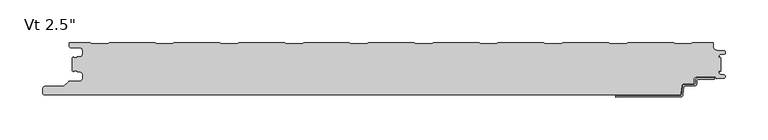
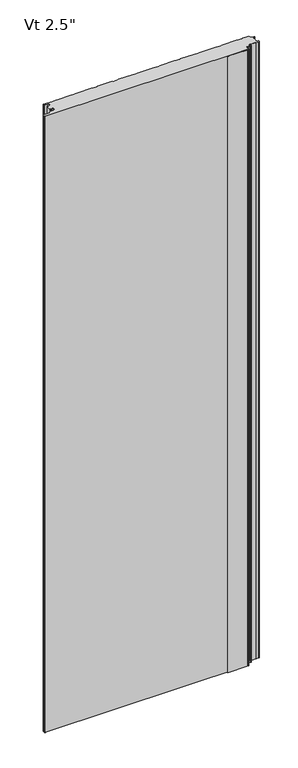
"""IFC4 building model written with IfcOpenShell, lengths in millimetres: plate geometry."""

from ifc_helpers import new_model, si_unit, frame, origin, place, context, project, spatial, polyline, circle_curve, source, transform, mapped, element, save
from ifc_brep_helpers import plane_surface, cylinder_surface, revolved_surface, advanced_brep


def plate_90d14016(model_context):
    return source(origin(), model_context, "Body", "AdvancedBrep", [
        advanced_brep(
        [(354.8464083, -42.4008679, 0.0), (373.5916083, -42.4008679, 0.0), (373.5916083, -43.9248679, 0.0), (354.8464083, -43.9248679, 0.0), (353.3224083, -45.4488679, 0.0), (353.3224083, -48.5476679, 0.0), (349.8680083, -52.0020679, 0.0), (338.655451, -52.0020679, 0.0), (337.8963506, -52.6976552, 0.0), (336.701523, -62.2416507, 0.0), (333.6651216, -65.024, 0.0), (258.0978083, -65.0360323, 0.0), (258.0978083, -63.5, 0.0), (333.6651216, -63.5, 0.0), (335.1833223, -62.1088254, 0.0), (336.3781499, -52.5648299, 0.0), (338.655451, -50.4780679, 0.0), (349.8680083, -50.4780679, 0.0), (351.7984083, -48.5476679, 0.0), (351.7984083, -45.4488679, 0.0), (354.8464083, -42.4008679, 2400.0), (351.7984083, -45.4488679, 2400.0), (351.7984083, -48.5476679, 2400.0), (349.8680083, -50.4780679, 2400.0), (338.655451, -50.4780679, 2400.0), (336.3781499, -52.5648299, 2400.0), (335.1833223, -62.1088254, 2400.0), (333.6651216, -63.5, 2400.0), (258.0978083, -63.5, 2400.0), (258.0978083, -65.0360323, 2400.0), (333.6651216, -65.0360323, 2400.0), (336.701523, -62.2416507, 2400.0), (337.8963506, -52.6976552, 2400.0), (338.655451, -52.0020679, 2400.0), (349.8680083, -52.0020679, 2400.0), (353.3224083, -48.5476679, 2400.0), (353.3224083, -45.4488679, 2400.0), (354.8464083, -43.9248679, 2400.0), (373.5916083, -43.9248679, 2400.0), (373.5916083, -42.4008679, 2400.0)],
        [
            (0, 1),
            (1, 2),
            (2, 3),
            (3, 4, circle_curve(frame((354.8464083, -45.4488679, 0.0), z_axis=(0.0, 0.0, 1.0), x_axis=(0.0, 1.0, 0.0)), 1.524)),
            (4, 5),
            (5, 6, circle_curve(frame((349.8680083, -48.5476679, 0.0), z_axis=(0.0, 0.0, -1.0), x_axis=(0.0, 1.0, 0.0)), 3.4544)),
            (6, 7),
            (7, 8, circle_curve(frame((338.655451, -52.7640679, 0.0), z_axis=(0.0, 0.0, 1.0), x_axis=(0.0, 1.0, 0.0)), 0.762)),
            (8, 9),
            (9, 10, circle_curve(frame((333.6651216, -61.976, 0.0), z_axis=(0.0, 0.0, -1.0), x_axis=(0.0, 1.0, 0.0)), 3.048)),
            (10, 11),
            (11, 12),
            (12, 13),
            (13, 14, circle_curve(frame((333.6651216, -61.976, 0.0), z_axis=(0.0, 0.0, 1.0), x_axis=(0.0, 1.0, 0.0)), 1.524)),
            (14, 15),
            (15, 16, circle_curve(frame((338.655451, -52.7640679, 0.0), z_axis=(0.0, 0.0, -1.0), x_axis=(0.0, 1.0, 0.0)), 2.286)),
            (16, 17),
            (17, 18, circle_curve(frame((349.8680083, -48.5476679, 0.0), z_axis=(0.0, 0.0, 1.0), x_axis=(0.0, 1.0, 0.0)), 1.9304)),
            (18, 19),
            (19, 0, circle_curve(frame((354.8464083, -45.4488679, 0.0), z_axis=(0.0, 0.0, -1.0), x_axis=(0.0, 1.0, 0.0)), 3.048)),
            (20, 21, circle_curve(frame((354.8464083, -45.4488679, 2400.0), z_axis=(0.0, 0.0, 1.0), x_axis=(0.0, 1.0, 0.0)), 3.048)),
            (21, 22),
            (22, 23, circle_curve(frame((349.8680083, -48.5476679, 2400.0), z_axis=(0.0, 0.0, -1.0), x_axis=(0.0, 1.0, 0.0)), 1.9304)),
            (23, 24),
            (24, 25, circle_curve(frame((338.655451, -52.7640679, 2400.0), z_axis=(0.0, 0.0, 1.0), x_axis=(0.0, 1.0, 0.0)), 2.286)),
            (25, 26),
            (26, 27, circle_curve(frame((333.6651216, -61.976, 2400.0), z_axis=(0.0, 0.0, -1.0), x_axis=(0.0, 1.0, 0.0)), 1.524)),
            (27, 28),
            (28, 29),
            (29, 30),
            (30, 31, circle_curve(frame((333.6651216, -61.976, 2400.0), z_axis=(0.0, 0.0, 1.0), x_axis=(0.0, 1.0, 0.0)), 3.048)),
            (31, 32),
            (32, 33, circle_curve(frame((338.655451, -52.7640679, 2400.0), z_axis=(0.0, 0.0, -1.0), x_axis=(0.0, 1.0, 0.0)), 0.762)),
            (33, 34),
            (34, 35, circle_curve(frame((349.8680083, -48.5476679, 2400.0), z_axis=(0.0, 0.0, 1.0), x_axis=(0.0, 1.0, 0.0)), 3.4544)),
            (35, 36),
            (36, 37, circle_curve(frame((354.8464083, -45.4488679, 2400.0), z_axis=(0.0, 0.0, -1.0), x_axis=(0.0, 1.0, 0.0)), 1.524)),
            (37, 38),
            (38, 39),
            (39, 20),
            (2, 38),
            (37, 3),
            (15, 25),
            (24, 16),
            (7, 33),
            (32, 8),
            (5, 35),
            (34, 6),
            (1, 39),
            (36, 4),
            (9, 31),
            (30, 10),
            (13, 27),
            (26, 14),
            (0, 20),
            (12, 28),
            (29, 11),
            (23, 17),
            (18, 22),
            (21, 19),
        ],
        [
            plane_surface(frame((373.5916083, -63.5, 0.0), z_axis=(0.0, 0.0, -1.0), x_axis=(-1.0, 0.0, 0.0))),
            plane_surface(frame((373.5916083, -63.5, 2400.0), z_axis=(0.0, 0.0, 1.0), x_axis=(-1.0, 0.0, 0.0))),
            plane_surface(frame((354.8464083, -43.9248679, 0.0), z_axis=(0.0, -1.0, 0.0), x_axis=(0.0, 0.0, 1.0))),
            cylinder_surface(frame((338.655451, -52.7640679, 0.0), z_axis=(0.0, 0.0, -1.0), x_axis=(0.0, 1.0, 0.0)), 2.286),
            revolved_surface(polyline([(338.655451, -52.0020679, 2400.0), (338.655451, -52.0020679, 0.0)]), (338.655451, -52.7640679, 0.0), (0.0, 0.0, 1.0)),
            cylinder_surface(frame((349.8680083, -48.5476679, 0.0), z_axis=(0.0, 0.0, -1.0), x_axis=(0.0, 1.0, 0.0)), 3.4544),
            plane_surface(frame((373.5916083, -43.9248679, 0.0), z_axis=(1.0, 0.0, 0.0), x_axis=(0.0, 0.0, 1.0))),
            revolved_surface(polyline([(354.8464083, -43.9248679, 2400.0), (354.8464083, -43.9248679, 0.0)]), (354.8464083, -45.4488679, 0.0), (0.0, 0.0, 1.0)),
            cylinder_surface(frame((333.6651216, -61.976, 0.0), z_axis=(0.0, 0.0, -1.0), x_axis=(0.0, 1.0, 0.0)), 3.048),
            revolved_surface(polyline([(333.6651216, -60.452, 2400.0), (333.6651216, -60.452, 0.0)]), (333.6651216, -61.976, 0.0), (0.0, 0.0, 1.0)),
            plane_surface(frame((373.5916083, -42.4008679, 0.0), z_axis=(0.0, 1.0, 0.0), x_axis=(0.0, 0.0, 1.0))),
            plane_surface(frame((336.3781499, -52.5648299, 0.0), z_axis=(-0.9922544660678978, 0.12422187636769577, 0.0), x_axis=(0.0, 0.0, 1.0))),
            plane_surface(frame((333.6651216, -63.5, 0.0), z_axis=(0.0, 1.0, 0.0), x_axis=(0.0, 0.0, 1.0))),
            plane_surface(frame((336.701523, -62.2416507, 0.0), z_axis=(0.9922544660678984, -0.12422187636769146, 0.0), x_axis=(0.0, 0.0, 1.0))),
            plane_surface(frame((353.3224083, -48.5476679, 0.0), z_axis=(1.0, 0.0, 0.0), x_axis=(0.0, 0.0, 1.0))),
            plane_surface(frame((258.0978083, -65.0360323, 0.0), z_axis=(0.0, -1.0, 0.0), x_axis=(0.0, 0.0, 1.0))),
            plane_surface(frame((258.0978083, -63.5, 0.0), z_axis=(-1.0, 0.0, 0.0), x_axis=(0.0, 0.0, 1.0))),
            plane_surface(frame((349.8680083, -50.4780679, 0.0), z_axis=(0.0, 1.0, 0.0), x_axis=(0.0, 0.0, 1.0))),
            plane_surface(frame((351.7984083, -45.4488679, 0.0), z_axis=(-1.0, 0.0, 0.0), x_axis=(0.0, 0.0, 1.0))),
            plane_surface(frame((338.655451, -52.0020679, 0.0), z_axis=(0.0, -1.0, 0.0), x_axis=(0.0, 0.0, 1.0))),
            revolved_surface(polyline([(349.8680083, -46.6172679, 2400.0), (349.8680083, -46.6172679, 0.0)]), (349.8680083, -48.5476679, 0.0), (0.0, 0.0, 1.0)),
            cylinder_surface(frame((354.8464083, -45.4488679, 0.0), z_axis=(0.0, 0.0, -1.0), x_axis=(0.0, 1.0, 0.0)), 3.048),
        ],
        [
            (0, [[1, 2, 3, 4, 5, 6, 7, 8, 9, 10, 11, 12, 13, 14, 15, 16, 17, 18, 19, 20]]),
            (1, [[21, 22, 23, 24, 25, 26, 27, 28, 29, 30, 31, 32, 33, 34, 35, 36, 37, 38, 39, 40]]),
            (2, [[41, -38, 42, -3]]),
            (3, [[43, -25, 44, -16]]),
            (4, [[45, -33, 46, -8]]),
            (5, [[47, -35, 48, -6]]),
            (6, [[49, -39, -41, -2]]),
            (7, [[-42, -37, 50, -4]]),
            (8, [[51, -31, 52, -10]]),
            (9, [[53, -27, 54, -14]]),
            (10, [[55, -40, -49, -1]]),
            (11, [[-54, -26, -43, -15]]),
            (12, [[56, -28, -53, -13]]),
            (13, [[-46, -32, -51, -9]]),
            (14, [[-50, -36, -47, -5]]),
            (15, [[-52, -30, 57, -11]]),
            (16, [[-57, -29, -56, -12]]),
            (17, [[-44, -24, 58, -17]]),
            (18, [[59, -22, 60, -19]]),
            (19, [[-48, -34, -45, -7]]),
            (20, [[-58, -23, -59, -18]]),
            (21, [[-60, -21, -55, -20]]),
        ],
    ),
        advanced_brep(
        [(-379.9683001, -35.1708722, 2400.0), (-378.7671761, -34.0013975, 2400.0), (-375.0087827, -34.0013975, 2400.0), (-375.0087827, -35.3998764, 2400.0), (-372.3096717, -35.3998764, 2400.0), (-368.9596764, -38.7498717, 2400.0), (-368.9596764, -43.1498629, 2400.0), (-372.3096717, -46.4998582, 2400.0), (-384.1205608, -46.4998582, 2400.0), (-385.3226385, -46.9977751, 2400.0), (-390.8247096, -52.4998462, 2400.0), (-412.9198392, -52.4998462, 2400.0), (-415.5765709, -54.7184482, 2400.0), (-416.0125699, -59.7002691, 2400.0), (-413.4521176, -62.494594, 2400.0), (332.515622, -62.4999973, 2400.0), (334.4669057, -60.7149232, 2400.0), (335.221161, -52.2539464, 2400.0), (338.3653654, -49.4906435, 2400.0), (348.4583308, -49.4906435, 2400.0), (349.4097394, -48.5392348, 2400.0), (349.4097394, -45.3955794, 2400.0), (353.4091924, -41.3961265, 2400.0), (374.5895515, -41.3961265, 2400.0), (375.7334028, -43.3769743, 2400.0), (384.706811, -43.021714, 2400.0), (384.7037148, -38.8211364, 2400.0), (380.6977997, -38.5767215, 2400.0), (378.9686884, -36.7819089, 2400.0), (378.9686884, -33.9973623, 2400.0), (379.9686884, -33.9973623, 2400.0), (379.9686884, -35.5848623, 2400.0), (381.0, -34.5535507, 2400.0), (381.0, -18.6184498, 2400.0), (379.9686884, -17.5871382, 2400.0), (379.9686884, -19.0015261, 2400.0), (378.9686884, -19.0015261, 2400.0), (378.9686884, -16.6743434, 2400.0), (380.6513685, -14.9256402, 2400.0), (384.7921924, -14.7059795, 2400.0), (384.7931719, -10.4046415, 2400.0), (376.3016499, -9.9974338, 2400.0), (372.4787013, -6.002598, 2400.0), (372.4787013, -0.9999973, 2400.0), (347.9790963, -0.9999973, 2400.0), (346.5934634, -2.200228, 2400.0), (327.2182971, -2.200228, 2400.0), (325.8326641, -0.9999973, 2400.0), (271.7792487, -0.9999973, 2400.0), (270.3936158, -2.200228, 2400.0), (251.0184495, -2.200228, 2400.0), (249.6328165, -0.9999973, 2400.0), (195.5794011, -0.9999973, 2400.0), (194.1937682, -2.200228, 2400.0), (174.8186019, -2.200228, 2400.0), (173.4329689, -0.9999973, 2400.0), (119.3795535, -0.9999973, 2400.0), (117.9939206, -2.200228, 2400.0), (98.6187543, -2.200228, 2400.0), (97.2331213, -0.9999973, 2400.0), (43.1797059, -0.9999973, 2400.0), (41.794073, -2.200228, 2400.0), (22.4189067, -2.200228, 2400.0), (21.0332737, -0.9999973, 2400.0), (-33.0201417, -0.9999973, 2400.0), (-34.4057746, -2.200228, 2400.0), (-53.7809409, -2.200228, 2400.0), (-55.1665739, -0.9999973, 2400.0), (-109.2199893, -0.9999973, 2400.0), (-110.6056222, -2.200228, 2400.0), (-129.9807885, -2.200228, 2400.0), (-131.3664215, -0.9999973, 2400.0), (-185.4198369, -0.9999973, 2400.0), (-186.8054698, -2.200228, 2400.0), (-206.1806361, -2.200228, 2400.0), (-207.5662691, -0.9999973, 2400.0), (-261.6196845, -0.9999973, 2400.0), (-263.0053174, -2.200228, 2400.0), (-282.3804837, -2.200228, 2400.0), (-283.7661167, -0.9999973, 2400.0), (-337.8195321, -0.9999973, 2400.0), (-339.205165, -2.200228, 2400.0), (-358.5803313, -2.200228, 2400.0), (-359.965974, -0.9999889, 2400.0), (-384.4662506, -0.9999889, 2400.0), (-384.4662506, -5.2315362, 2400.0), (-382.6962564, -7.0015304, 2400.0), (-372.2762778, -7.0015304, 2400.0), (-368.976282, -10.3015263, 2400.0), (-368.976282, -14.7015175, 2400.0), (-372.2762777, -18.0015132, 2400.0), (-374.9684875, -18.0015132, 2400.0), (-374.9684875, -19.0015077, 2400.0), (-378.9686911, -19.0015077, 2400.0), (-379.9686883, -18.0015165, 2400.0), (-381.0, -19.0328281, 2400.0), (-381.0, -34.1391724, 2400.0), (-379.9683001, -35.1708722, 0.0), (-381.0, -34.1391724, 0.0), (-381.0, -19.0328281, 0.0), (-379.9686883, -18.0015165, 0.0), (-378.9686911, -19.0015077, 0.0), (-374.9684875, -19.0015077, 0.0), (-374.9684875, -18.0015132, 0.0), (-372.2762777, -18.0015132, 0.0), (-368.976282, -14.7015175, 0.0), (-368.976282, -10.3015263, 0.0), (-372.2762778, -7.0015304, 0.0), (-382.6962564, -7.0015304, 0.0), (-384.4662506, -5.2315362, 0.0), (-384.4662506, -0.9999889, 0.0), (-359.965974, -0.9999889, 0.0), (-358.5803313, -2.200228, 0.0), (-339.205165, -2.200228, 0.0), (-337.8195321, -0.9999973, 0.0), (-283.7661167, -0.9999973, 0.0), (-282.3804837, -2.200228, 0.0), (-263.0053174, -2.200228, 0.0), (-261.6196845, -0.9999973, 0.0), (-207.5662691, -0.9999973, 0.0), (-206.1806361, -2.200228, 0.0), (-186.8054698, -2.200228, 0.0), (-185.4198369, -0.9999973, 0.0), (-131.3664215, -0.9999973, 0.0), (-129.9807885, -2.200228, 0.0), (-110.6056222, -2.200228, 0.0), (-109.2199893, -0.9999973, 0.0), (-55.1665739, -0.9999973, 0.0), (-53.7809409, -2.200228, 0.0), (-34.4057746, -2.200228, 0.0), (-33.0201417, -0.9999973, 0.0), (21.0332737, -0.9999973, 0.0), (22.4189067, -2.200228, 0.0), (41.794073, -2.200228, 0.0), (43.1797059, -0.9999973, 0.0), (97.2331213, -0.9999973, 0.0), (98.6187543, -2.200228, 0.0), (117.9939206, -2.200228, 0.0), (119.3795535, -0.9999973, 0.0), (173.4329689, -0.9999973, 0.0), (174.8186019, -2.200228, 0.0), (194.1937682, -2.200228, 0.0), (195.5794011, -0.9999973, 0.0), (249.6328165, -0.9999973, 0.0), (251.0184495, -2.200228, 0.0), (270.3936158, -2.200228, 0.0), (271.7792487, -0.9999973, 0.0), (325.8326641, -0.9999973, 0.0), (327.2182971, -2.200228, 0.0), (346.5934634, -2.200228, 0.0), (347.9790963, -0.9999973, 0.0), (372.4787013, -0.9999973, 0.0), (372.4787013, -6.002598, 0.0), (376.3016499, -9.9974338, 0.0), (384.7931719, -10.4046415, 0.0), (384.7921924, -14.7059795, 0.0), (380.6513685, -14.9256402, 0.0), (378.9686884, -16.6743434, 0.0), (378.9686884, -19.0015261, 0.0), (379.9686884, -19.0015261, 0.0), (379.9686884, -17.5871382, 0.0), (381.0, -18.6184498, 0.0), (381.0, -34.5535507, 0.0), (379.9686884, -35.5848623, 0.0), (379.9686884, -33.9973623, 0.0), (378.9686884, -33.9973623, 0.0), (378.9686884, -36.7819089, 0.0), (380.6977997, -38.5767215, 0.0), (384.7037148, -38.8211364, 0.0), (384.706811, -43.021714, 0.0), (375.7334028, -43.3769743, 0.0), (374.5895515, -41.3961265, 0.0), (353.4091924, -41.3961265, 0.0), (349.4097394, -45.3955794, 0.0), (349.4097394, -48.5392348, 0.0), (348.4583308, -49.4906435, 0.0), (338.3653654, -49.4906435, 0.0), (335.221161, -52.2539464, 0.0), (334.4669057, -60.7149232, 0.0), (332.515622, -62.4999973, 0.0), (-413.4521176, -62.4999973, 0.0), (-416.0125699, -59.7002691, 0.0), (-415.5765709, -54.7184482, 0.0), (-412.9198392, -52.4998462, 0.0), (-390.8247096, -52.4998462, 0.0), (-385.3226385, -46.9977751, 0.0), (-384.1205608, -46.4998582, 0.0), (-372.3096717, -46.4998582, 0.0), (-368.9596764, -43.1498629, 0.0), (-368.9596764, -38.7498717, 0.0), (-372.3096717, -35.3998764, 0.0), (-375.0087827, -35.3998764, 0.0), (-375.0087827, -34.0013975, 0.0), (-378.7671761, -34.0013975, 0.0)],
        [
            (0, 1, circle_curve(frame((-378.7686908, -35.2013942, 2400.0), z_axis=(0.0, 0.0, -1.0), x_axis=(-1.0, 0.0, 0.0)), 1.1999976)),
            (1, 2),
            (2, 3),
            (3, 4),
            (4, 5, circle_curve(frame((-372.3096717, -38.7498717, 2400.0), z_axis=(0.0, 0.0, -1.0), x_axis=(-1.0, 0.0, 0.0)), 3.3499953)),
            (5, 6),
            (6, 7, circle_curve(frame((-372.3096717, -43.1498629, 2400.0), z_axis=(0.0, 0.0, -1.0), x_axis=(-1.0, 0.0, 0.0)), 3.3499953)),
            (7, 8),
            (8, 9, circle_curve(frame((-384.1205608, -48.1998528, 2400.0), z_axis=(0.0, 0.0, 1.0), x_axis=(-1.0, 0.0, 0.0)), 1.6999946)),
            (9, 10),
            (10, 11),
            (11, 12, circle_curve(frame((-412.9198392, -55.1998388, 2400.0), z_axis=(0.0, 0.0, 1.0), x_axis=(-1.0, 0.0, 0.0)), 2.6999926)),
            (12, 13),
            (13, 14, circle_curve(frame((-413.4521176, -59.9243547, 2400.0), z_axis=(0.0, 0.0, 1.0), x_axis=(-1.0, 0.0, 0.0)), 2.5702393)),
            (14, 15),
            (15, 16, circle_curve(frame((332.515622, -60.5409756, 2400.0), z_axis=(0.0, 0.0, 1.0), x_axis=(-1.0, 0.0, 0.0)), 1.9590216)),
            (16, 17),
            (17, 18, circle_curve(frame((338.2396267, -52.5180294, 2400.0), z_axis=(0.0, 0.0, -1.0), x_axis=(-1.0, 0.0, 0.0)), 3.0299959)),
            (18, 19),
            (19, 20, circle_curve(frame((348.4583308, -48.5392348, 2400.0), z_axis=(0.0, 0.0, 1.0), x_axis=(-1.0, 0.0, 0.0)), 0.9514087)),
            (20, 21),
            (21, 22, circle_curve(frame((353.4091924, -45.3955794, 2400.0), z_axis=(0.0, 0.0, -1.0), x_axis=(-1.0, 0.0, 0.0)), 3.9994529)),
            (22, 23),
            (23, 24),
            (24, 25),
            (25, 26, circle_curve(frame((384.6236622, -40.9214853, 2400.0), z_axis=(0.0, 0.0, 1.0), x_axis=(-1.0, 0.0, 0.0)), 2.1018739)),
            (26, 27),
            (27, 28, circle_curve(frame((380.8099653, -36.7383479, 2400.0), z_axis=(0.0, 0.0, -1.0), x_axis=(-1.0, 0.0, 0.0)), 1.8417922)),
            (28, 29),
            (29, 30),
            (30, 31),
            (31, 32),
            (32, 33),
            (33, 34),
            (34, 35),
            (35, 36),
            (36, 37),
            (37, 38, circle_curve(frame((380.7186869, -16.6743434, 2400.0), z_axis=(0.0, 0.0, -1.0), x_axis=(1.0, 0.0, 0.0)), 1.7499985)),
            (38, 39),
            (39, 40, circle_curve(frame((384.6781032, -12.5552844, 2400.0), z_axis=(0.0, 0.0, 1.0), x_axis=(1.0, 0.0, 0.0)), 2.153719)),
            (40, 41),
            (41, 42, circle_curve(frame((376.4939817, -5.9867311, 2400.0), z_axis=(0.0, 0.0, -1.0), x_axis=(1.0, 0.0, 0.0)), 4.0153117)),
            (42, 43),
            (43, 44),
            (44, 45),
            (45, 46),
            (46, 47),
            (47, 48),
            (48, 49),
            (49, 50),
            (50, 51),
            (51, 52),
            (52, 53),
            (53, 54),
            (54, 55),
            (55, 56),
            (56, 57),
            (57, 58),
            (58, 59),
            (59, 60),
            (60, 61),
            (61, 62),
            (62, 63),
            (63, 64),
            (64, 65),
            (65, 66),
            (66, 67),
            (67, 68),
            (68, 69),
            (69, 70),
            (70, 71),
            (71, 72),
            (72, 73),
            (73, 74),
            (74, 75),
            (75, 76),
            (76, 77),
            (77, 78),
            (78, 79),
            (79, 80),
            (80, 81),
            (81, 82),
            (82, 83),
            (83, 84),
            (84, 85),
            (85, 86, circle_curve(frame((-382.6962564, -5.2315362, 2400.0), z_axis=(0.0, 0.0, 1.0), x_axis=(1.0, 0.0, 0.0)), 1.7699942)),
            (86, 87),
            (87, 88, circle_curve(frame((-372.2762778, -10.3015263, 2400.0), z_axis=(0.0, 0.0, -1.0), x_axis=(1.0, 0.0, 0.0)), 3.2999959)),
            (88, 89),
            (89, 90, circle_curve(frame((-372.2762777, -14.7015175, 2400.0), z_axis=(0.0, 0.0, -1.0), x_axis=(1.0, 0.0, 0.0)), 3.2999957)),
            (90, 91),
            (91, 92),
            (92, 93),
            (93, 94, circle_curve(frame((-378.9686911, -18.0015105, 2400.0), z_axis=(0.0, 0.0, -1.0), x_axis=(1.0, 0.0, 0.0)), 0.9999972)),
            (94, 95),
            (95, 96),
            (96, 0),
            (97, 98),
            (98, 99),
            (99, 100),
            (100, 101, circle_curve(frame((-378.9686911, -18.0015105, 0.0), z_axis=(0.0, 0.0, 1.0), x_axis=(1.0, 0.0, 0.0)), 0.9999972)),
            (101, 102),
            (102, 103),
            (103, 104),
            (104, 105, circle_curve(frame((-372.2762777, -14.7015175, 0.0), z_axis=(0.0, 0.0, 1.0), x_axis=(1.0, 0.0, 0.0)), 3.2999957)),
            (105, 106),
            (106, 107, circle_curve(frame((-372.2762778, -10.3015263, 0.0), z_axis=(0.0, 0.0, 1.0), x_axis=(1.0, 0.0, 0.0)), 3.2999959)),
            (107, 108),
            (108, 109, circle_curve(frame((-382.6962564, -5.2315362, 0.0), z_axis=(0.0, 0.0, -1.0), x_axis=(1.0, 0.0, 0.0)), 1.7699942)),
            (109, 110),
            (110, 111),
            (111, 112),
            (112, 113),
            (113, 114),
            (114, 115),
            (115, 116),
            (116, 117),
            (117, 118),
            (118, 119),
            (119, 120),
            (120, 121),
            (121, 122),
            (122, 123),
            (123, 124),
            (124, 125),
            (125, 126),
            (126, 127),
            (127, 128),
            (128, 129),
            (129, 130),
            (130, 131),
            (131, 132),
            (132, 133),
            (133, 134),
            (134, 135),
            (135, 136),
            (136, 137),
            (137, 138),
            (138, 139),
            (139, 140),
            (140, 141),
            (141, 142),
            (142, 143),
            (143, 144),
            (144, 145),
            (145, 146),
            (146, 147),
            (147, 148),
            (148, 149),
            (149, 150),
            (150, 151),
            (151, 152),
            (152, 153, circle_curve(frame((376.4939817, -5.9867311, 0.0), z_axis=(0.0, 0.0, 1.0), x_axis=(1.0, 0.0, 0.0)), 4.0153117)),
            (153, 154),
            (154, 155, circle_curve(frame((384.6781032, -12.5552844, 0.0), z_axis=(0.0, 0.0, -1.0), x_axis=(1.0, 0.0, 0.0)), 2.153719)),
            (155, 156),
            (156, 157, circle_curve(frame((380.7186869, -16.6743434, 0.0), z_axis=(0.0, 0.0, 1.0), x_axis=(1.0, 0.0, 0.0)), 1.7499985)),
            (157, 158),
            (158, 159),
            (159, 160),
            (160, 161),
            (161, 162),
            (162, 163),
            (163, 164),
            (164, 165),
            (165, 166),
            (166, 167, circle_curve(frame((380.8099653, -36.7383479, 0.0), z_axis=(0.0, 0.0, 1.0), x_axis=(-1.0, 0.0, 0.0)), 1.8417922)),
            (167, 168),
            (168, 169, circle_curve(frame((384.6236622, -40.9214853, 0.0), z_axis=(0.0, 0.0, -1.0), x_axis=(-1.0, 0.0, 0.0)), 2.1018739)),
            (169, 170),
            (170, 171),
            (171, 172),
            (172, 173, circle_curve(frame((353.4091924, -45.3955794, 0.0), z_axis=(0.0, 0.0, 1.0), x_axis=(-1.0, 0.0, 0.0)), 3.9994529)),
            (173, 174),
            (174, 175, circle_curve(frame((348.4583308, -48.5392348, 0.0), z_axis=(0.0, 0.0, -1.0), x_axis=(-1.0, 0.0, 0.0)), 0.9514087)),
            (175, 176),
            (176, 177, circle_curve(frame((338.2396267, -52.5180294, 0.0), z_axis=(0.0, 0.0, 1.0), x_axis=(-1.0, 0.0, 0.0)), 3.0299959)),
            (177, 178),
            (178, 179, circle_curve(frame((332.515622, -60.5409756, 0.0), z_axis=(0.0, 0.0, -1.0), x_axis=(-1.0, 0.0, 0.0)), 1.9590216)),
            (179, 180),
            (180, 181, circle_curve(frame((-413.4521176, -59.9243547, 0.0), z_axis=(0.0, 0.0, -1.0), x_axis=(-1.0, 0.0, 0.0)), 2.5702393)),
            (181, 182),
            (182, 183, circle_curve(frame((-412.9198392, -55.1998388, 0.0), z_axis=(0.0, 0.0, -1.0), x_axis=(-1.0, 0.0, 0.0)), 2.6999926)),
            (183, 184),
            (184, 185),
            (185, 186, circle_curve(frame((-384.1205608, -48.1998528, 0.0), z_axis=(0.0, 0.0, -1.0), x_axis=(-1.0, 0.0, 0.0)), 1.6999946)),
            (186, 187),
            (187, 188, circle_curve(frame((-372.3096717, -43.1498629, 0.0), z_axis=(0.0, 0.0, 1.0), x_axis=(-1.0, 0.0, 0.0)), 3.3499953)),
            (188, 189),
            (189, 190, circle_curve(frame((-372.3096717, -38.7498717, 0.0), z_axis=(0.0, 0.0, 1.0), x_axis=(-1.0, 0.0, 0.0)), 3.3499953)),
            (190, 191),
            (191, 192),
            (192, 193),
            (193, 97, circle_curve(frame((-378.7686908, -35.2013942, 0.0), z_axis=(0.0, 0.0, 1.0), x_axis=(-1.0, 0.0, 0.0)), 1.1999976)),
            (96, 98),
            (97, 0),
            (95, 99),
            (32, 162),
            (161, 33),
            (31, 163),
            (30, 164),
            (29, 165),
            (28, 166),
            (27, 167),
            (26, 168),
            (25, 169),
            (24, 170),
            (23, 171),
            (22, 172),
            (21, 173),
            (20, 174),
            (19, 175),
            (18, 176),
            (17, 177),
            (16, 178),
            (15, 179),
            (14, 180),
            (13, 181),
            (12, 182),
            (11, 183),
            (10, 184),
            (9, 185),
            (8, 186),
            (7, 187),
            (6, 188),
            (5, 189),
            (4, 190),
            (3, 191),
            (2, 192),
            (1, 193),
            (94, 100),
            (93, 101),
            (92, 102),
            (91, 103),
            (90, 104),
            (89, 105),
            (88, 106),
            (87, 107),
            (86, 108),
            (85, 109),
            (84, 110),
            (83, 111),
            (82, 112),
            (81, 113),
            (80, 114),
            (79, 115),
            (78, 116),
            (77, 117),
            (76, 118),
            (75, 119),
            (74, 120),
            (73, 121),
            (72, 122),
            (71, 123),
            (70, 124),
            (69, 125),
            (68, 126),
            (67, 127),
            (66, 128),
            (65, 129),
            (64, 130),
            (63, 131),
            (62, 132),
            (61, 133),
            (60, 134),
            (59, 135),
            (58, 136),
            (57, 137),
            (56, 138),
            (55, 139),
            (54, 140),
            (53, 141),
            (52, 142),
            (51, 143),
            (50, 144),
            (49, 145),
            (48, 146),
            (47, 147),
            (46, 148),
            (45, 149),
            (44, 150),
            (43, 151),
            (42, 152),
            (41, 153),
            (40, 154),
            (39, 155),
            (38, 156),
            (37, 157),
            (36, 158),
            (35, 159),
            (34, 160),
        ],
        [
            plane_surface(frame((0.0, -62.4999973, 2400.0), z_axis=(0.0, 0.0, 1.0), x_axis=(0.0, -1.0, 0.0))),
            plane_surface(frame((0.0, -62.4999973, 0.0), z_axis=(0.0, 0.0, -1.0), x_axis=(0.0, -1.0, 0.0))),
            plane_surface(frame((-379.9683001, -35.1708722, 2400.0), z_axis=(-0.707106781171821, -0.707106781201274, 0.0), x_axis=(0.0, 0.0, -1.0))),
            plane_surface(frame((-381.0, -34.1391724, 2400.0), z_axis=(-1.0, 0.0, 0.0), x_axis=(0.0, 0.0, -1.0))),
            plane_surface(frame((381.0, -33.1391724, 2400.0), z_axis=(1.0, 0.0, 0.0), x_axis=(0.0, 0.0, -1.0))),
            plane_surface(frame((381.0, -34.5535507, 2400.0), z_axis=(0.7071067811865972, -0.7071067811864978, 0.0), x_axis=(0.0, 0.0, -1.0))),
            plane_surface(frame((379.9686884, -35.5848623, 2400.0), z_axis=(-1.0, 0.0, 0.0), x_axis=(0.0, 0.0, -1.0))),
            plane_surface(frame((379.9686884, -33.9973623, 2400.0), z_axis=(0.0, -1.0, 0.0), x_axis=(0.0, 0.0, -1.0))),
            plane_surface(frame((378.9686884, -33.9973623, 2400.0), z_axis=(1.0, 0.0, 0.0), x_axis=(0.0, 0.0, -1.0))),
            revolved_surface(polyline([(378.9681731, -36.7383479, 0.0), (378.9681731, -36.7383479, 2400.0)]), (380.8099653, -36.7383479, 2400.0), (0.0, 0.0, -1.0)),
            plane_surface(frame((380.6977997, -38.5767215, 2400.0), z_axis=(0.06090025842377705, 0.9981438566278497, 0.0), x_axis=(0.0, 0.0, -1.0))),
            cylinder_surface(frame((384.6236622, -40.9214853, 2400.0), z_axis=(0.0, 0.0, 1.0), x_axis=(-1.0, 0.0, 0.0)), 2.1018739),
            plane_surface(frame((384.706811, -43.021714, 2400.0), z_axis=(0.039559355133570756, -0.9992172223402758, 0.0), x_axis=(0.0, 0.0, -1.0))),
            plane_surface(frame((375.7334028, -43.3769743, 2400.0), z_axis=(-0.8659859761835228, -0.5000682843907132, 0.0), x_axis=(0.0, 0.0, -1.0))),
            plane_surface(frame((374.5895515, -41.3961265, 2400.0), z_axis=(0.0, -1.0, 0.0), x_axis=(0.0, 0.0, -1.0))),
            revolved_surface(polyline([(349.4097395, -45.3955794, 0.0), (349.4097395, -45.3955794, 2400.0)]), (353.4091924, -45.3955794, 2400.0), (0.0, 0.0, -1.0)),
            plane_surface(frame((349.4097394, -45.3955794, 2400.0), z_axis=(1.0, 0.0, 0.0), x_axis=(0.0, 0.0, -1.0))),
            cylinder_surface(frame((348.4583308, -48.5392348, 2400.0), z_axis=(0.0, 0.0, 1.0), x_axis=(-1.0, 0.0, 0.0)), 0.9514087),
            plane_surface(frame((348.4583308, -49.4906435, 2400.0), z_axis=(0.0, -1.0, 0.0), x_axis=(0.0, 0.0, -1.0))),
            revolved_surface(polyline([(335.20963079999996, -52.5180294, 0.0), (335.20963079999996, -52.5180294, 2400.0)]), (338.2396267, -52.5180294, 2400.0), (0.0, 0.0, -1.0)),
            plane_surface(frame((335.221161, -52.2539464, 2400.0), z_axis=(0.9960500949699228, -0.08879306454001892, 0.0), x_axis=(0.0, 0.0, -1.0))),
            cylinder_surface(frame((332.515622, -60.5409756, 2400.0), z_axis=(0.0, 0.0, 1.0), x_axis=(-1.0, 0.0, 0.0)), 1.9590216),
            plane_surface(frame((332.515622, -62.4999973, 2400.0), z_axis=(0.0, -1.0, 0.0), x_axis=(0.0, 0.0, -1.0))),
            cylinder_surface(frame((-413.4521176, -59.9243547, 2400.0), z_axis=(0.0, 0.0, 1.0), x_axis=(-1.0, 0.0, 0.0)), 2.5702393),
            plane_surface(frame((-416.0125699, -59.7002691, 2400.0), z_axis=(-0.9961921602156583, 0.08718474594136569, 0.0), x_axis=(0.0, 0.0, -1.0))),
            cylinder_surface(frame((-412.9198392, -55.1998388, 2400.0), z_axis=(0.0, 0.0, 1.0), x_axis=(-1.0, 0.0, 0.0)), 2.6999926),
            plane_surface(frame((-412.9198392, -52.4998462, 2400.0), z_axis=(0.0, 1.0, 0.0), x_axis=(0.0, 0.0, -1.0))),
            plane_surface(frame((-390.8247096, -52.4998462, 2400.0), z_axis=(-0.7071067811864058, 0.7071067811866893, 0.0), x_axis=(0.0, 0.0, -1.0))),
            cylinder_surface(frame((-384.1205608, -48.1998528, 2400.0), z_axis=(0.0, 0.0, 1.0), x_axis=(-1.0, 0.0, 0.0)), 1.6999946),
            plane_surface(frame((-384.1205608, -46.4998582, 2400.0), z_axis=(0.0, 1.0, 0.0), x_axis=(0.0, 0.0, -1.0))),
            revolved_surface(polyline([(-375.659667, -43.1498629, 0.0), (-375.659667, -43.1498629, 2400.0)]), (-372.3096717, -43.1498629, 2400.0), (0.0, 0.0, -1.0)),
            plane_surface(frame((-368.9596764, -43.1498629, 2400.0), z_axis=(-1.0, 0.0, 0.0), x_axis=(0.0, 0.0, -1.0))),
            revolved_surface(polyline([(-375.659667, -38.7498717, 0.0), (-375.659667, -38.7498717, 2400.0)]), (-372.3096717, -38.7498717, 2400.0), (0.0, 0.0, -1.0)),
            plane_surface(frame((-372.3096717, -35.3998764, 2400.0), z_axis=(0.0, -1.0, 0.0), x_axis=(0.0, 0.0, -1.0))),
            plane_surface(frame((-375.0087827, -35.3998764, 2400.0), z_axis=(-1.0, 0.0, 0.0), x_axis=(0.0, 0.0, -1.0))),
            plane_surface(frame((-375.0087827, -34.0013975, 2400.0), z_axis=(0.0, -1.0, 0.0), x_axis=(0.0, 0.0, -1.0))),
            revolved_surface(polyline([(-379.9686884, -35.2013942, 0.0), (-379.9686884, -35.2013942, 2400.0)]), (-378.7686908, -35.2013942, 2400.0), (0.0, 0.0, -1.0)),
            plane_surface(frame((-381.0, -19.0328281, 2400.0), z_axis=(-0.70710678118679, 0.707106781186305, 0.0), x_axis=(0.0, 0.0, -1.0))),
            revolved_surface(polyline([(-377.9686939, -18.0015105, 0.0), (-377.9686939, -18.0015105, 2400.0)]), (-378.9686911, -18.0015105, 2400.0), (0.0, 0.0, -1.0)),
            plane_surface(frame((-378.9686911, -19.0015077, 2400.0), z_axis=(0.0, 1.0, 0.0), x_axis=(0.0, 0.0, -1.0))),
            plane_surface(frame((-374.9684875, -19.0015077, 2400.0), z_axis=(-1.0, 0.0, 0.0), x_axis=(0.0, 0.0, -1.0))),
            plane_surface(frame((-374.9684875, -18.0015132, 2400.0), z_axis=(0.0, 1.0, 0.0), x_axis=(0.0, 0.0, -1.0))),
            revolved_surface(polyline([(-368.97628199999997, -14.7015175, 0.0), (-368.97628199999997, -14.7015175, 2400.0)]), (-372.2762777, -14.7015175, 2400.0), (0.0, 0.0, -1.0)),
            plane_surface(frame((-368.976282, -14.7015175, 2400.0), z_axis=(-1.0, 0.0, 0.0), x_axis=(0.0, 0.0, -1.0))),
            revolved_surface(polyline([(-368.9762819, -10.3015263, 0.0), (-368.9762819, -10.3015263, 2400.0)]), (-372.2762778, -10.3015263, 2400.0), (0.0, 0.0, -1.0)),
            plane_surface(frame((-372.2762778, -7.0015304, 2400.0), z_axis=(0.0, -1.0, 0.0), x_axis=(0.0, 0.0, -1.0))),
            cylinder_surface(frame((-382.6962564, -5.2315362, 2400.0), z_axis=(0.0, 0.0, 1.0), x_axis=(1.0, 0.0, 0.0)), 1.7699942),
            plane_surface(frame((-384.4662506, -5.2315362, 2400.0), z_axis=(-1.0, 0.0, 0.0), x_axis=(0.0, 0.0, -1.0))),
            plane_surface(frame((-384.4662506, -0.9999889, 2400.0), z_axis=(0.0, 1.0, 0.0), x_axis=(0.0, 0.0, -1.0))),
            plane_surface(frame((-359.965974, -0.9999889, 2400.0), z_axis=(0.6547276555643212, 0.7558648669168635, 0.0), x_axis=(0.0, 0.0, -1.0))),
            plane_surface(frame((-358.5803313, -2.200228, 2400.0), z_axis=(0.0, 1.0, 0.0), x_axis=(0.0, 0.0, -1.0))),
            plane_surface(frame((-339.205165, -2.200228, 2400.0), z_axis=(-0.6547276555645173, 0.7558648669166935, 0.0), x_axis=(0.0, 0.0, -1.0))),
            plane_surface(frame((-337.8195321, -0.9999973, 2400.0), z_axis=(0.0, 1.0, 0.0), x_axis=(0.0, 0.0, -1.0))),
            plane_surface(frame((-283.7661167, -0.9999973, 2400.0), z_axis=(0.65472765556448, 0.7558648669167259, 0.0), x_axis=(0.0, 0.0, -1.0))),
            plane_surface(frame((-282.3804837, -2.200228, 2400.0), z_axis=(0.0, 1.0, 0.0), x_axis=(0.0, 0.0, -1.0))),
            plane_surface(frame((-263.0053174, -2.200228, 2400.0), z_axis=(-0.6547276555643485, 0.7558648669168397, 0.0), x_axis=(0.0, 0.0, -1.0))),
            plane_surface(frame((-261.6196845, -0.9999973, 2400.0), z_axis=(0.0, 1.0, 0.0), x_axis=(0.0, 0.0, -1.0))),
            plane_surface(frame((-207.5662691, -0.9999973, 2400.0), z_axis=(0.6547276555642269, 0.7558648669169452, 0.0), x_axis=(0.0, 0.0, -1.0))),
            plane_surface(frame((-206.1806361, -2.200228, 2400.0), z_axis=(0.0, 1.0, 0.0), x_axis=(0.0, 0.0, -1.0))),
            plane_surface(frame((-186.8054698, -2.200228, 2400.0), z_axis=(-0.6547276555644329, 0.7558648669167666, 0.0), x_axis=(0.0, 0.0, -1.0))),
            plane_surface(frame((-185.4198369, -0.9999973, 2400.0), z_axis=(0.0, 1.0, 0.0), x_axis=(0.0, 0.0, -1.0))),
            plane_surface(frame((-131.3664215, -0.9999973, 2400.0), z_axis=(0.6547276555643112, 0.755864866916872, 0.0), x_axis=(0.0, 0.0, -1.0))),
            plane_surface(frame((-129.9807885, -2.200228, 2400.0), z_axis=(0.0, 1.0, 0.0), x_axis=(0.0, 0.0, -1.0))),
            plane_surface(frame((-110.6056222, -2.200228, 2400.0), z_axis=(-0.6547276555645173, 0.7558648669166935, 0.0), x_axis=(0.0, 0.0, -1.0))),
            plane_surface(frame((-109.2199893, -0.9999973, 2400.0), z_axis=(0.0, 1.0, 0.0), x_axis=(0.0, 0.0, -1.0))),
            plane_surface(frame((-55.1665739, -0.9999973, 2400.0), z_axis=(0.6547276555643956, 0.755864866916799, 0.0), x_axis=(0.0, 0.0, -1.0))),
            plane_surface(frame((-53.7809409, -2.200228, 2400.0), z_axis=(0.0, 1.0, 0.0), x_axis=(0.0, 0.0, -1.0))),
            plane_surface(frame((-34.4057746, -2.200228, 2400.0), z_axis=(-0.6547276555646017, 0.7558648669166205, 0.0), x_axis=(0.0, 0.0, -1.0))),
            plane_surface(frame((-33.0201417, -0.9999973, 2400.0), z_axis=(0.0, 1.0, 0.0), x_axis=(0.0, 0.0, -1.0))),
            plane_surface(frame((21.0332737, -0.9999973, 2400.0), z_axis=(0.65472765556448, 0.7558648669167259, 0.0), x_axis=(0.0, 0.0, -1.0))),
            plane_surface(frame((22.4189067, -2.200228, 2400.0), z_axis=(0.0, 1.0, 0.0), x_axis=(0.0, 0.0, -1.0))),
            plane_surface(frame((41.794073, -2.200228, 2400.0), z_axis=(-0.6547276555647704, 0.7558648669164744, 0.0), x_axis=(0.0, 0.0, -1.0))),
            plane_surface(frame((43.1797059, -0.9999973, 2400.0), z_axis=(0.0, 1.0, 0.0), x_axis=(0.0, 0.0, -1.0))),
            plane_surface(frame((97.2331213, -0.9999973, 2400.0), z_axis=(0.6547276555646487, 0.7558648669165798, 0.0), x_axis=(0.0, 0.0, -1.0))),
            plane_surface(frame((98.6187543, -2.200228, 2400.0), z_axis=(0.0, 1.0, 0.0), x_axis=(0.0, 0.0, -1.0))),
            plane_surface(frame((117.9939206, -2.200228, 2400.0), z_axis=(-0.6547276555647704, 0.7558648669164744, 0.0), x_axis=(0.0, 0.0, -1.0))),
            plane_surface(frame((119.3795535, -0.9999973, 2400.0), z_axis=(0.0, 1.0, 0.0), x_axis=(0.0, 0.0, -1.0))),
            plane_surface(frame((173.4329689, -0.9999973, 2400.0), z_axis=(0.6547276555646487, 0.7558648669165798, 0.0), x_axis=(0.0, 0.0, -1.0))),
            plane_surface(frame((174.8186019, -2.200228, 2400.0), z_axis=(0.0, 1.0, 0.0), x_axis=(0.0, 0.0, -1.0))),
            plane_surface(frame((194.1937682, -2.200228, 2400.0), z_axis=(-0.6547276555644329, 0.7558648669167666, 0.0), x_axis=(0.0, 0.0, -1.0))),
            plane_surface(frame((195.5794011, -0.9999973, 2400.0), z_axis=(0.0, 1.0, 0.0), x_axis=(0.0, 0.0, -1.0))),
            plane_surface(frame((249.6328165, -0.9999973, 2400.0), z_axis=(0.6547276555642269, 0.7558648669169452, 0.0), x_axis=(0.0, 0.0, -1.0))),
            plane_surface(frame((251.0184495, -2.200228, 2400.0), z_axis=(0.0, 1.0, 0.0), x_axis=(0.0, 0.0, -1.0))),
            plane_surface(frame((270.3936158, -2.200228, 2400.0), z_axis=(-0.6547276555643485, 0.7558648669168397, 0.0), x_axis=(0.0, 0.0, -1.0))),
            plane_surface(frame((271.7792487, -0.9999973, 2400.0), z_axis=(0.0, 1.0, 0.0), x_axis=(0.0, 0.0, -1.0))),
            plane_surface(frame((325.8326641, -0.9999973, 2400.0), z_axis=(0.6547276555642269, 0.7558648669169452, 0.0), x_axis=(0.0, 0.0, -1.0))),
            plane_surface(frame((327.2182971, -2.200228, 2400.0), z_axis=(0.0, 1.0, 0.0), x_axis=(0.0, 0.0, -1.0))),
            plane_surface(frame((346.5934634, -2.200228, 2400.0), z_axis=(-0.6547276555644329, 0.7558648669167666, 0.0), x_axis=(0.0, 0.0, -1.0))),
            plane_surface(frame((347.9790963, -0.9999973, 2400.0), z_axis=(0.0, 1.0, 0.0), x_axis=(0.0, 0.0, -1.0))),
            plane_surface(frame((372.4787013, -0.9999973, 2400.0), z_axis=(1.0, 0.0, 0.0), x_axis=(0.0, 0.0, -1.0))),
            revolved_surface(polyline([(380.5092934, -5.9867311, 0.0), (380.5092934, -5.9867311, 2400.0)]), (376.4939817, -5.9867311, 2400.0), (0.0, 0.0, -1.0)),
            plane_surface(frame((376.3016499, -9.9974338, 2400.0), z_axis=(0.04789957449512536, 0.9988521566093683, 0.0), x_axis=(0.0, 0.0, -1.0))),
            cylinder_surface(frame((384.6781032, -12.5552844, 2400.0), z_axis=(0.0, 0.0, 1.0), x_axis=(1.0, 0.0, 0.0)), 2.153719),
            plane_surface(frame((384.7921924, -14.7059795, 2400.0), z_axis=(0.05297310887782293, -0.9985959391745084, 0.0), x_axis=(0.0, 0.0, -1.0))),
            revolved_surface(polyline([(382.4686854, -16.6743434, 0.0), (382.4686854, -16.6743434, 2400.0)]), (380.7186869, -16.6743434, 2400.0), (0.0, 0.0, -1.0)),
            plane_surface(frame((378.9686884, -16.6743434, 2400.0), z_axis=(1.0, 0.0, 0.0), x_axis=(0.0, 0.0, -1.0))),
            plane_surface(frame((378.9686884, -19.0015261, 2400.0), z_axis=(0.0, 1.0, 0.0), x_axis=(0.0, 0.0, -1.0))),
            plane_surface(frame((379.9686884, -19.0015261, 2400.0), z_axis=(-1.0, 0.0, 0.0), x_axis=(0.0, 0.0, -1.0))),
            plane_surface(frame((379.9686884, -17.5871382, 2400.0), z_axis=(0.7071067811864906, 0.7071067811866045, 0.0), x_axis=(0.0, 0.0, -1.0))),
        ],
        [
            (0, [[1, 2, 3, 4, 5, 6, 7, 8, 9, 10, 11, 12, 13, 14, 15, 16, 17, 18, 19, 20, 21, 22, 23, 24, 25, 26, 27, 28, 29, 30, 31, 32, 33, 34, 35, 36, 37, 38, 39, 40, 41, 42, 43, 44, 45, 46, 47, 48, 49, 50, 51, 52, 53, 54, 55, 56, 57, 58, 59, 60, 61, 62, 63, 64, 65, 66, 67, 68, 69, 70, 71, 72, 73, 74, 75, 76, 77, 78, 79, 80, 81, 82, 83, 84, 85, 86, 87, 88, 89, 90, 91, 92, 93, 94, 95, 96, 97]]),
            (1, [[98, 99, 100, 101, 102, 103, 104, 105, 106, 107, 108, 109, 110, 111, 112, 113, 114, 115, 116, 117, 118, 119, 120, 121, 122, 123, 124, 125, 126, 127, 128, 129, 130, 131, 132, 133, 134, 135, 136, 137, 138, 139, 140, 141, 142, 143, 144, 145, 146, 147, 148, 149, 150, 151, 152, 153, 154, 155, 156, 157, 158, 159, 160, 161, 162, 163, 164, 165, 166, 167, 168, 169, 170, 171, 172, 173, 174, 175, 176, 177, 178, 179, 180, 181, 182, 183, 184, 185, 186, 187, 188, 189, 190, 191, 192, 193, 194]]),
            (2, [[195, -98, 196, -97]]),
            (3, [[197, -99, -195, -96]]),
            (4, [[198, -162, 199, -33]]),
            (5, [[200, -163, -198, -32]]),
            (6, [[201, -164, -200, -31]]),
            (7, [[202, -165, -201, -30]]),
            (8, [[203, -166, -202, -29]]),
            (9, [[204, -167, -203, -28]]),
            (10, [[205, -168, -204, -27]]),
            (11, [[206, -169, -205, -26]]),
            (12, [[207, -170, -206, -25]]),
            (13, [[208, -171, -207, -24]]),
            (14, [[209, -172, -208, -23]]),
            (15, [[210, -173, -209, -22]]),
            (16, [[211, -174, -210, -21]]),
            (17, [[212, -175, -211, -20]]),
            (18, [[213, -176, -212, -19]]),
            (19, [[214, -177, -213, -18]]),
            (20, [[215, -178, -214, -17]]),
            (21, [[216, -179, -215, -16]]),
            (22, [[217, -180, -216, -15]]),
            (23, [[218, -181, -217, -14]]),
            (24, [[219, -182, -218, -13]]),
            (25, [[220, -183, -219, -12]]),
            (26, [[221, -184, -220, -11]]),
            (27, [[222, -185, -221, -10]]),
            (28, [[223, -186, -222, -9]]),
            (29, [[224, -187, -223, -8]]),
            (30, [[225, -188, -224, -7]]),
            (31, [[226, -189, -225, -6]]),
            (32, [[227, -190, -226, -5]]),
            (33, [[228, -191, -227, -4]]),
            (34, [[229, -192, -228, -3]]),
            (35, [[230, -193, -229, -2]]),
            (36, [[-196, -194, -230, -1]]),
            (37, [[231, -100, -197, -95]]),
            (38, [[232, -101, -231, -94]]),
            (39, [[233, -102, -232, -93]]),
            (40, [[234, -103, -233, -92]]),
            (41, [[235, -104, -234, -91]]),
            (42, [[236, -105, -235, -90]]),
            (43, [[237, -106, -236, -89]]),
            (44, [[238, -107, -237, -88]]),
            (45, [[239, -108, -238, -87]]),
            (46, [[240, -109, -239, -86]]),
            (47, [[241, -110, -240, -85]]),
            (48, [[242, -111, -241, -84]]),
            (49, [[243, -112, -242, -83]]),
            (50, [[244, -113, -243, -82]]),
            (51, [[245, -114, -244, -81]]),
            (52, [[246, -115, -245, -80]]),
            (53, [[247, -116, -246, -79]]),
            (54, [[248, -117, -247, -78]]),
            (55, [[249, -118, -248, -77]]),
            (56, [[250, -119, -249, -76]]),
            (57, [[251, -120, -250, -75]]),
            (58, [[252, -121, -251, -74]]),
            (59, [[253, -122, -252, -73]]),
            (60, [[254, -123, -253, -72]]),
            (61, [[255, -124, -254, -71]]),
            (62, [[256, -125, -255, -70]]),
            (63, [[257, -126, -256, -69]]),
            (64, [[258, -127, -257, -68]]),
            (65, [[259, -128, -258, -67]]),
            (66, [[260, -129, -259, -66]]),
            (67, [[261, -130, -260, -65]]),
            (68, [[262, -131, -261, -64]]),
            (69, [[263, -132, -262, -63]]),
            (70, [[264, -133, -263, -62]]),
            (71, [[265, -134, -264, -61]]),
            (72, [[266, -135, -265, -60]]),
            (73, [[267, -136, -266, -59]]),
            (74, [[268, -137, -267, -58]]),
            (75, [[269, -138, -268, -57]]),
            (76, [[270, -139, -269, -56]]),
            (77, [[271, -140, -270, -55]]),
            (78, [[272, -141, -271, -54]]),
            (79, [[273, -142, -272, -53]]),
            (80, [[274, -143, -273, -52]]),
            (81, [[275, -144, -274, -51]]),
            (82, [[276, -145, -275, -50]]),
            (83, [[277, -146, -276, -49]]),
            (84, [[278, -147, -277, -48]]),
            (85, [[279, -148, -278, -47]]),
            (86, [[280, -149, -279, -46]]),
            (87, [[281, -150, -280, -45]]),
            (88, [[282, -151, -281, -44]]),
            (89, [[283, -152, -282, -43]]),
            (90, [[284, -153, -283, -42]]),
            (91, [[285, -154, -284, -41]]),
            (92, [[286, -155, -285, -40]]),
            (93, [[287, -156, -286, -39]]),
            (94, [[288, -157, -287, -38]]),
            (95, [[289, -158, -288, -37]]),
            (96, [[290, -159, -289, -36]]),
            (97, [[291, -160, -290, -35]]),
            (98, [[-199, -161, -291, -34]]),
        ],
    ),
    ])


if __name__ == "__main__":
    model = new_model("IFC4")
    model_context = context("Model", 3, world=origin())
    ifc_project = project(units=[si_unit("LENGTHUNIT", "METRE", prefix="MILLI")], contexts=[model_context])
    site = spatial("IfcSite", under=ifc_project)
    building = spatial("IfcBuilding", under=site)
    placement = place(None, origin())
    plate_shape = plate_90d14016(model_context)
    element("IfcPlate", 1, ObjectType="KIP-30-Karrier-KP-R19-CP-Vt-FL3-8_SL : Vt 2.5\"", at=placement, inside=building, context=model_context, shape_type="MappedRepresentation", body=[
        mapped(plate_shape, transform((0.0, 0.0, 0.0), x_axis=(1.0, 0.0, 0.0), y_axis=(0.0, 1.0, 0.0), z_axis=(0.0, 0.0, 1.0))),
    ])
    save(model, "model.ifc")
